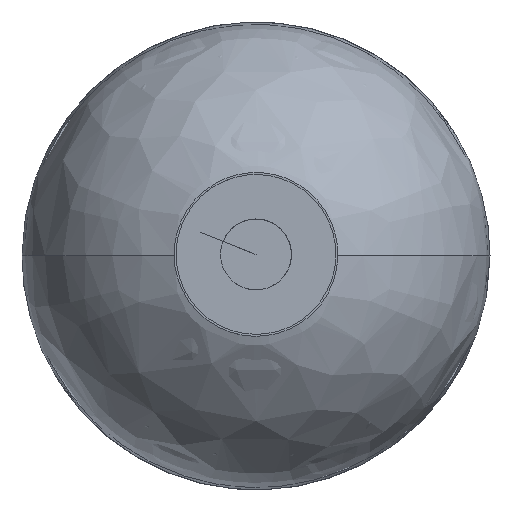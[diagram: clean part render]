
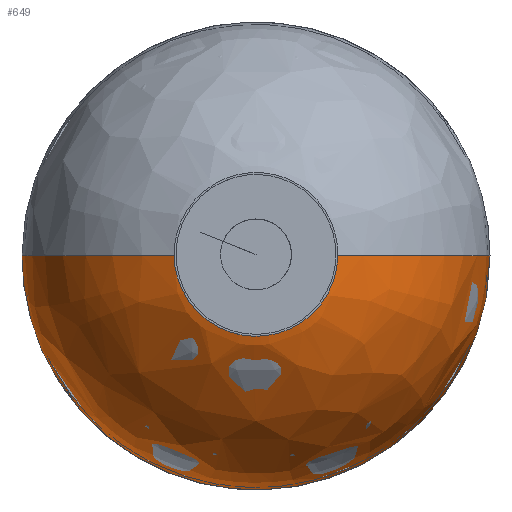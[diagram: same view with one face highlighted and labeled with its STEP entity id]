
A CAD part, top view. The second image highlights one B-rep face of the part: STEP entity #649.
In plain terms, the highlighted free-form (B-spline) face has degree [2, 2] with [5, 5] control points.
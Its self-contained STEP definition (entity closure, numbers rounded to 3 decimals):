
#649=ADVANCED_FACE('',(#1138),#6545,.T.);
#1138=FACE_OUTER_BOUND('',#1668,.T.);
#1668=EDGE_LOOP('',(#3443,#3444,#3445,#3446));
#3443=ORIENTED_EDGE('',*,*,#4478,.T.);
#3444=ORIENTED_EDGE('',*,*,#4482,.T.);
#3445=ORIENTED_EDGE('',*,*,#4463,.F.);
#3446=ORIENTED_EDGE('',*,*,#4464,.T.);
#4463=EDGE_CURVE('',#6018,#6019,#5415,.T.);
#4464=EDGE_CURVE('',#6018,#6026,#5416,.T.);
#4478=EDGE_CURVE('',#6026,#6027,#5426,.T.);
#4482=EDGE_CURVE('',#6027,#6019,#5430,.T.);
#5415=(
BOUNDED_CURVE()
B_SPLINE_CURVE(2,(#19186,#19187,#19188,#19189,#19190),.UNSPECIFIED.,.F.,
 .F.)
B_SPLINE_CURVE_WITH_KNOTS((3,2,3),(0.,284.785,
569.57),.UNSPECIFIED.)
CURVE()
GEOMETRIC_REPRESENTATION_ITEM()
RATIONAL_B_SPLINE_CURVE((1.,0.707,1.,0.707,1.))
REPRESENTATION_ITEM('')
);
#5416=(
BOUNDED_CURVE()
B_SPLINE_CURVE(2,(#19191,#19192,#19193),.UNSPECIFIED.,.F.,.F.)
B_SPLINE_CURVE_WITH_KNOTS((3,3),(0.221,277.157),
 .UNSPECIFIED.)
CURVE()
GEOMETRIC_REPRESENTATION_ITEM()
RATIONAL_B_SPLINE_CURVE((1.,0.717,1.))
REPRESENTATION_ITEM('')
);
#5426=(
BOUNDED_CURVE()
B_SPLINE_CURVE(2,(#19241,#19242,#19243,#19244,#19245),.UNSPECIFIED.,.F.,
 .F.)
B_SPLINE_CURVE_WITH_KNOTS((3,2,3),(0.,8.011,16.022),
 .UNSPECIFIED.)
CURVE()
GEOMETRIC_REPRESENTATION_ITEM()
RATIONAL_B_SPLINE_CURVE((1.,0.707,1.,0.707,1.))
REPRESENTATION_ITEM('')
);
#5430=(
BOUNDED_CURVE()
B_SPLINE_CURVE(2,(#19257,#19258,#19259),.UNSPECIFIED.,.F.,.F.)
B_SPLINE_CURVE_WITH_KNOTS((3,3),(-277.157,-0.221),
 .UNSPECIFIED.)
CURVE()
GEOMETRIC_REPRESENTATION_ITEM()
RATIONAL_B_SPLINE_CURVE((1.,0.717,1.))
REPRESENTATION_ITEM('')
);
#6018=VERTEX_POINT('',#19166);
#6019=VERTEX_POINT('',#19167);
#6026=VERTEX_POINT('',#19174);
#6027=VERTEX_POINT('',#19175);
#6545=(
BOUNDED_SURFACE()
B_SPLINE_SURFACE(2,2,((#19039,#19040,#19041,#19042,#19043),(#19044,#19045,
#19046,#19047,#19048),(#19049,#19050,#19051,#19052,#19053),(#19054,#19055,
#19056,#19057,#19058),(#19059,#19060,#19061,#19062,#19063)),
 .UNSPECIFIED.,.F.,.F.,.F.)
B_SPLINE_SURFACE_WITH_KNOTS((3,2,3),(3,2,3),(0.,282.743,565.487),
(-282.743,0.,282.743),.UNSPECIFIED.)
GEOMETRIC_REPRESENTATION_ITEM()
RATIONAL_B_SPLINE_SURFACE(((1.,0.707,1.,0.707,1.),
(0.707,0.5,0.707,0.5,0.707),(1.,0.707,
1.,0.707,1.),(0.707,0.5,0.707,0.5,0.707),
(1.,0.707,1.,0.707,1.)))
REPRESENTATION_ITEM('')
SURFACE()
);
#19039=CARTESIAN_POINT('',(0.,0.,-528.928));
#19040=CARTESIAN_POINT('',(181.5,0.,-528.928));
#19041=CARTESIAN_POINT('',(181.5,0.,-710.428));
#19042=CARTESIAN_POINT('',(181.5,0.,-891.928));
#19043=CARTESIAN_POINT('',(0.,0.,-891.928));
#19044=CARTESIAN_POINT('',(0.,0.,-528.928));
#19045=CARTESIAN_POINT('',(181.5,-181.5,-528.928));
#19046=CARTESIAN_POINT('',(181.5,-181.5,-710.428));
#19047=CARTESIAN_POINT('',(181.5,-181.5,-891.928));
#19048=CARTESIAN_POINT('',(0.,0.,-891.928));
#19049=CARTESIAN_POINT('',(0.,0.,-528.928));
#19050=CARTESIAN_POINT('',(0.,-181.5,-528.928));
#19051=CARTESIAN_POINT('',(0.,-181.5,-710.428));
#19052=CARTESIAN_POINT('',(0.,-181.5,-891.928));
#19053=CARTESIAN_POINT('',(0.,0.,-891.928));
#19054=CARTESIAN_POINT('',(0.,0.,-528.928));
#19055=CARTESIAN_POINT('',(-181.5,-181.5,-528.928));
#19056=CARTESIAN_POINT('',(-181.5,-181.5,-710.428));
#19057=CARTESIAN_POINT('',(-181.5,-181.5,-891.928));
#19058=CARTESIAN_POINT('',(0.,0.,-891.928));
#19059=CARTESIAN_POINT('',(0.,0.,-528.928));
#19060=CARTESIAN_POINT('',(-181.5,0.,-528.928));
#19061=CARTESIAN_POINT('',(-181.5,0.,-710.428));
#19062=CARTESIAN_POINT('',(-181.5,0.,-891.928));
#19063=CARTESIAN_POINT('',(0.,0.,-891.928));
#19166=CARTESIAN_POINT('',(181.5,0.,-710.228));
#19167=CARTESIAN_POINT('',(-181.5,0.,-710.228));
#19174=CARTESIAN_POINT('',(5.1,0.,-529.));
#19175=CARTESIAN_POINT('',(-5.1,0.,-529.));
#19186=CARTESIAN_POINT('',(181.5,0.,-710.228));
#19187=CARTESIAN_POINT('',(181.5,-181.5,-710.228));
#19188=CARTESIAN_POINT('',(0.,-181.5,-710.228));
#19189=CARTESIAN_POINT('',(-181.5,-181.5,-710.228));
#19190=CARTESIAN_POINT('',(-181.5,0.,-710.228));
#19191=CARTESIAN_POINT('',(181.5,0.,-710.228));
#19192=CARTESIAN_POINT('',(181.305,0.,-533.953));
#19193=CARTESIAN_POINT('',(5.1,0.,-529.));
#19241=CARTESIAN_POINT('',(5.1,0.,-529.));
#19242=CARTESIAN_POINT('',(5.1,-5.1,-529.));
#19243=CARTESIAN_POINT('',(0.,-5.1,-529.));
#19244=CARTESIAN_POINT('',(-5.1,-5.1,-529.));
#19245=CARTESIAN_POINT('',(-5.1,0.,-529.));
#19257=CARTESIAN_POINT('',(-5.1,0.,-529.));
#19258=CARTESIAN_POINT('',(-181.305,0.,-533.953));
#19259=CARTESIAN_POINT('',(-181.5,0.,-710.228));
